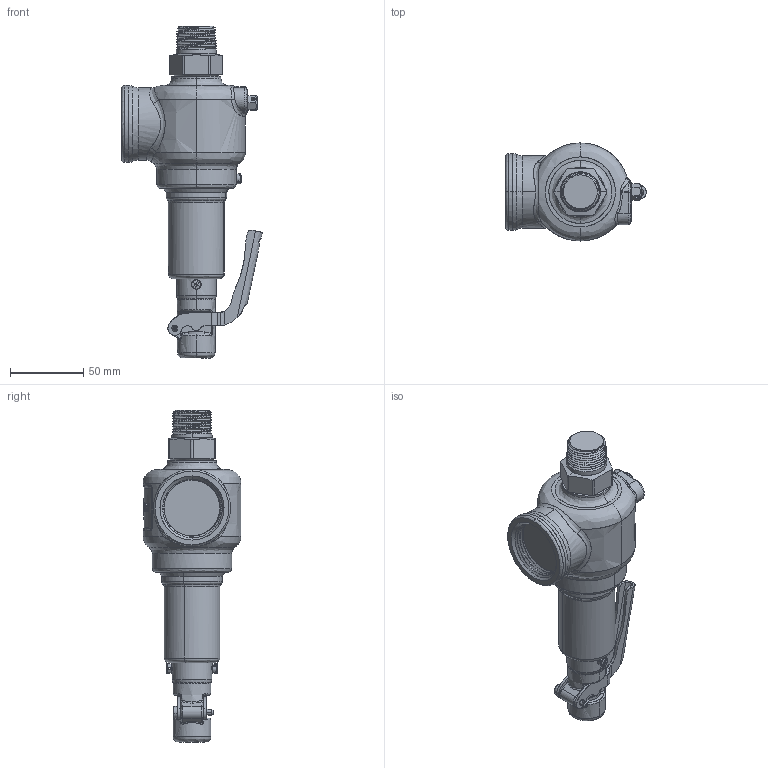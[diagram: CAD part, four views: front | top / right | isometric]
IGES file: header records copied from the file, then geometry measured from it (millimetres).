
Start section: SolidWorks IGES file using NURBS representation for surfaces
Global section: file name: C:\Design\Design\Aquatrol\Customer 3D Files\Series 740 Customer Files\E Orifice\Customer\Iges Files\Series 740 E 750 x 1250 Open Lever.IGS; native system: SolidWorks 2015; preprocessor: SolidWorks 2015; author: Karl; date: 150515.102050; units: inch
Bounding box: 95.63 x 66.67 x 225.9 mm (x, y, z)
Surface area: 47521.2 mm2 (no closed solid volume)
Topology: 0 solids, 0 shells, 520 faces, 8686 edges, 8686 vertices
Faces by surface type: bspline 520
